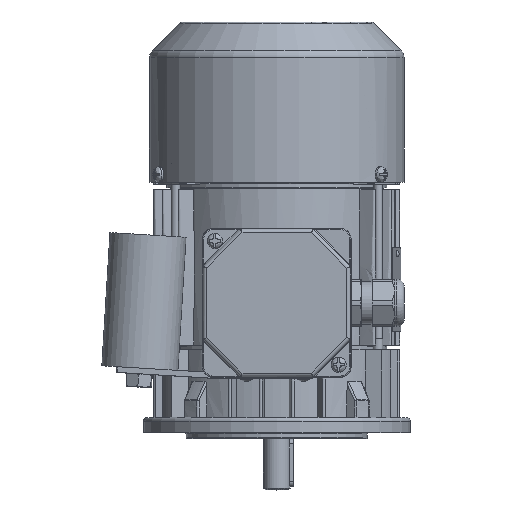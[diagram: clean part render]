
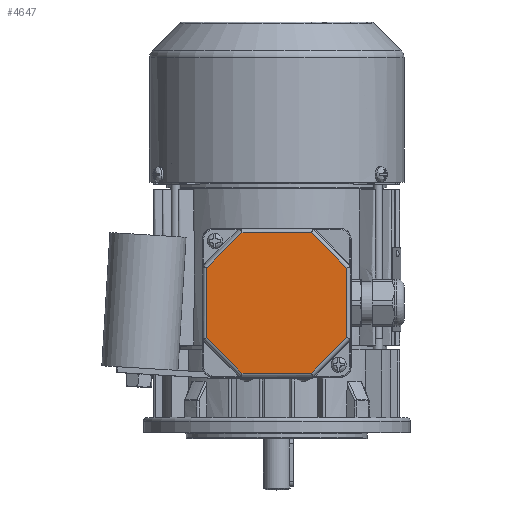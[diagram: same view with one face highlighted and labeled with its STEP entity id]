
A CAD part, top view. The second image highlights one B-rep face of the part: STEP entity #4647.
In plain terms, the highlighted planar face has unit normal (0, 0, 1).
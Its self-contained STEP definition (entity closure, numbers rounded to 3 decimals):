
#4647 = ADVANCED_FACE( '', ( #10526 ), #10527, .T. );
#10526 = FACE_OUTER_BOUND( '', #28197, .T. );
#10527 = PLANE( '', #28198 );
#28197 = EDGE_LOOP( '', ( #62807, #62808, #62809, #62810, #62811, #62812, #62813, #62814 ) );
#28198 = AXIS2_PLACEMENT_3D( '', #62815, #62816, #62817 );
#62807 = ORIENTED_EDGE( '', *, *, #80785, .T. );
#62808 = ORIENTED_EDGE( '', *, *, #80786, .T. );
#62809 = ORIENTED_EDGE( '', *, *, #78777, .T. );
#62810 = ORIENTED_EDGE( '', *, *, #80787, .T. );
#62811 = ORIENTED_EDGE( '', *, *, #80788, .T. );
#62812 = ORIENTED_EDGE( '', *, *, #80072, .T. );
#62813 = ORIENTED_EDGE( '', *, *, #80789, .T. );
#62814 = ORIENTED_EDGE( '', *, *, #80790, .T. );
#62815 = CARTESIAN_POINT( '', ( -39., 39., 12. ) );
#62816 = DIRECTION( '', ( 0., 0., 1. ) );
#62817 = DIRECTION( '', ( 1., 0., 0. ) );
#78777 = EDGE_CURVE( '', #89063, #89064, #89065, .F. );
#80072 = EDGE_CURVE( '', #91180, #91181, #91182, .T. );
#80785 = EDGE_CURVE( '', #92229, #90968, #92230, .F. );
#80786 = EDGE_CURVE( '', #90968, #89063, #92231, .T. );
#80787 = EDGE_CURVE( '', #89064, #89056, #92232, .T. );
#80788 = EDGE_CURVE( '', #89056, #91180, #92233, .F. );
#80789 = EDGE_CURVE( '', #91181, #87848, #92234, .F. );
#80790 = EDGE_CURVE( '', #87848, #92229, #92235, .T. );
#87848 = VERTEX_POINT( '', #107388 );
#89056 = VERTEX_POINT( '', #109572 );
#89063 = VERTEX_POINT( '', #109579 );
#89064 = VERTEX_POINT( '', #109580 );
#89065 = LINE( '', #109581, #109582 );
#90968 = VERTEX_POINT( '', #118096 );
#91180 = VERTEX_POINT( '', #118665 );
#91181 = VERTEX_POINT( '', #118666 );
#91182 = LINE( '', #118667, #118668 );
#92229 = VERTEX_POINT( '', #122840 );
#92230 = LINE( '', #122841, #122842 );
#92231 = LINE( '', #122843, #122844 );
#92232 = LINE( '', #122845, #122846 );
#92233 = LINE( '', #122847, #122848 );
#92234 = LINE( '', #122849, #122850 );
#92235 = LINE( '', #122851, #122852 );
#107388 = CARTESIAN_POINT( '', ( 18.255, -36.825, 12. ) );
#109572 = CARTESIAN_POINT( '', ( -36.825, 18.255, 12. ) );
#109579 = CARTESIAN_POINT( '', ( 18.255, 36.825, 12. ) );
#109580 = CARTESIAN_POINT( '', ( -18.255, 36.825, 12. ) );
#109581 = CARTESIAN_POINT( '', ( -19.069, 36.825, 12. ) );
#109582 = VECTOR( '', #142942, 1000. );
#118096 = CARTESIAN_POINT( '', ( 36.825, 18.255, 12. ) );
#118665 = CARTESIAN_POINT( '', ( -36.825, -18.255, 12. ) );
#118666 = CARTESIAN_POINT( '', ( -18.255, -36.825, 12. ) );
#118667 = CARTESIAN_POINT( '', ( -17.679, -37.401, 12. ) );
#118668 = VECTOR( '', #144331, 1000. );
#122840 = CARTESIAN_POINT( '', ( 36.825, -18.255, 12. ) );
#122841 = CARTESIAN_POINT( '', ( 36.825, 19.069, 12. ) );
#122842 = VECTOR( '', #145025, 1000. );
#122843 = CARTESIAN_POINT( '', ( 17.679, 37.401, 12. ) );
#122844 = VECTOR( '', #145026, 1000. );
#122845 = CARTESIAN_POINT( '', ( -37.401, 17.679, 12. ) );
#122846 = VECTOR( '', #145027, 1000. );
#122847 = CARTESIAN_POINT( '', ( -36.825, -19.069, 12. ) );
#122848 = VECTOR( '', #145028, 1000. );
#122849 = CARTESIAN_POINT( '', ( 19.069, -36.825, 12. ) );
#122850 = VECTOR( '', #145029, 1000. );
#122851 = CARTESIAN_POINT( '', ( 37.401, -17.679, 12. ) );
#122852 = VECTOR( '', #145030, 1000. );
#142942 = DIRECTION( '', ( 1., 0., 0. ) );
#144331 = DIRECTION( '', ( 0.707, -0.707, 0. ) );
#145025 = DIRECTION( '', ( 0., -1., 0. ) );
#145026 = DIRECTION( '', ( -0.707, 0.707, 0. ) );
#145027 = DIRECTION( '', ( -0.707, -0.707, 0. ) );
#145028 = DIRECTION( '', ( 0., 1., 0. ) );
#145029 = DIRECTION( '', ( -1., 0., 0. ) );
#145030 = DIRECTION( '', ( 0.707, 0.707, 0. ) );
